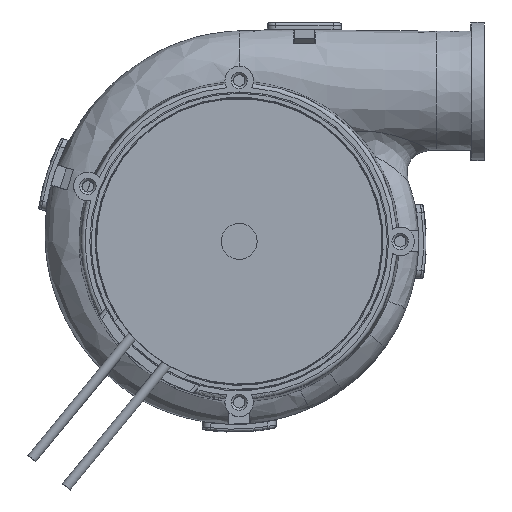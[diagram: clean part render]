
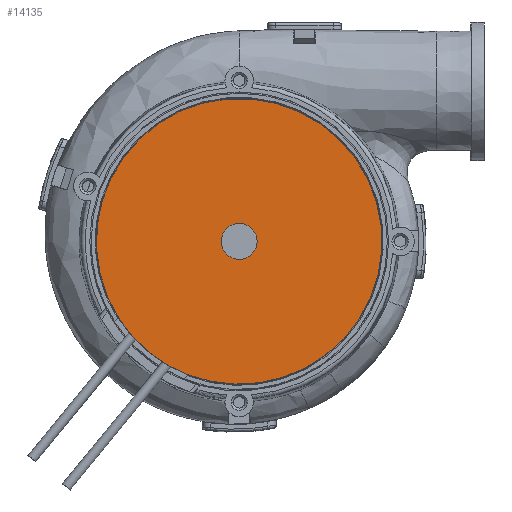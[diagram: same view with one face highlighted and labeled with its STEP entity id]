
A CAD part, top view. The second image highlights one B-rep face of the part: STEP entity #14135.
In plain terms, the highlighted planar face has unit normal (0, 0, 1).
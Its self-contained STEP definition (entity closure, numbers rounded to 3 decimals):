
#3855=CARTESIAN_POINT('',(0.,0.,19.));
#3856=DIRECTION('',(0.,0.,-1.));
#3857=DIRECTION('',(-0.367,-0.93,0.));
#3858=AXIS2_PLACEMENT_3D('',#3855,#3856,#3857);
#3863=CARTESIAN_POINT('',(0.,0.,19.));
#3864=DIRECTION('',(0.,0.,1.));
#3865=DIRECTION('',(1.,0.,0.));
#3866=AXIS2_PLACEMENT_3D('',#3863,#3864,#3865);
#3871=CARTESIAN_POINT('',(0.,0.,19.));
#3872=DIRECTION('',(0.,0.,1.));
#3873=DIRECTION('',(-1.,0.,0.));
#3874=AXIS2_PLACEMENT_3D('',#3871,#3872,#3873);
#4088=CARTESIAN_POINT('',(0.,0.,19.));
#4089=DIRECTION('',(0.,0.,1.));
#4090=DIRECTION('',(-0.367,-0.93,0.));
#4091=AXIS2_PLACEMENT_3D('',#4088,#4089,#4090);
#9145=CARTESIAN_POINT('',(-6.431,-16.276,19.));
#9147=VERTEX_POINT('',#9145);
#9149=CARTESIAN_POINT('',(-14.704,-9.49,19.));
#9151=VERTEX_POINT('',#9149);
#9153=CARTESIAN_POINT('',(2.2,0.,19.));
#9154=CARTESIAN_POINT('',(-2.2,0.,19.));
#9155=VERTEX_POINT('',#9153);
#9156=VERTEX_POINT('',#9154);
#14120=CARTESIAN_POINT('',(0.,0.,19.));
#14121=DIRECTION('',(0.,0.,1.));
#14122=DIRECTION('',(-1.,0.,0.));
#14123=AXIS2_PLACEMENT_3D('',#14120,#14121,#14122);
#14124=PLANE('',#14123);
#14126=ORIENTED_EDGE('',*,*,#14125,.T.);
#14128=ORIENTED_EDGE('',*,*,#14127,.F.);
#14129=EDGE_LOOP('',(#14126,#14128));
#14130=FACE_OUTER_BOUND('',#14129,.F.);
#14131=ORIENTED_EDGE('',*,*,#14086,.T.);
#14132=ORIENTED_EDGE('',*,*,#14107,.T.);
#14133=EDGE_LOOP('',(#14131,#14132));
#14134=FACE_BOUND('',#14133,.F.);
#14135=ADVANCED_FACE('',(#14130,#14134),#14124,.T.);
#3859=CIRCLE('',#3858,17.5);
#3867=CIRCLE('',#3866,2.2);
#3875=CIRCLE('',#3874,2.2);
#4092=CIRCLE('',#4091,17.5);
#14086=EDGE_CURVE('',#9155,#9156,#3867,.T.);
#14107=EDGE_CURVE('',#9156,#9155,#3875,.T.);
#14125=EDGE_CURVE('',#9147,#9151,#3859,.T.);
#14127=EDGE_CURVE('',#9147,#9151,#4092,.T.);
